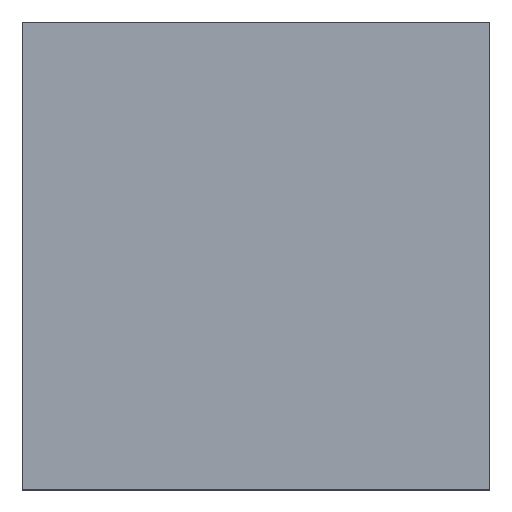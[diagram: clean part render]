
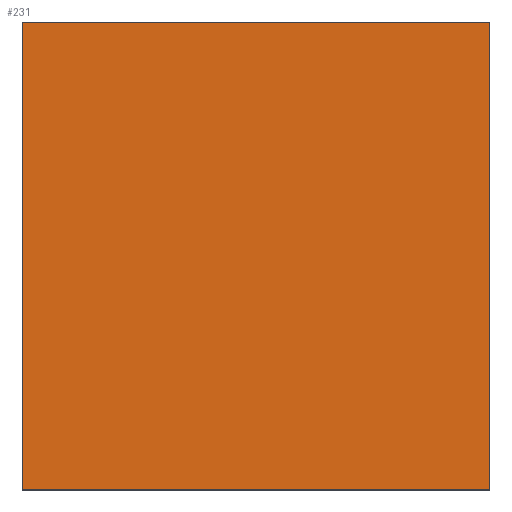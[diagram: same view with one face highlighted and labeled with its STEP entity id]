
A CAD part, top view. The second image highlights one B-rep face of the part: STEP entity #231.
In plain terms, the highlighted planar face has unit normal (0, 0, 1).
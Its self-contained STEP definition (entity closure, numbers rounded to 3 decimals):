
#42 = VERTEX_POINT('',#43);
#43 = CARTESIAN_POINT('',(-12.,-15.,72.6));
#50 = PLANE('',#51);
#51 = AXIS2_PLACEMENT_3D('',#52,#53,#54);
#52 = CARTESIAN_POINT('',(-12.,-15.,71.));
#53 = DIRECTION('',(1.,0.,0.));
#54 = DIRECTION('',(0.,0.,1.));
#62 = PLANE('',#63);
#63 = AXIS2_PLACEMENT_3D('',#64,#65,#66);
#64 = CARTESIAN_POINT('',(-12.,-15.,71.));
#65 = DIRECTION('',(0.,1.,0.));
#66 = DIRECTION('',(0.,0.,1.));
#103 = VERTEX_POINT('',#104);
#104 = CARTESIAN_POINT('',(-12.,9.,72.6));
#118 = PLANE('',#119);
#119 = AXIS2_PLACEMENT_3D('',#120,#121,#122);
#120 = CARTESIAN_POINT('',(-12.,9.,71.));
#121 = DIRECTION('',(0.,1.,0.));
#122 = DIRECTION('',(0.,0.,1.));
#130 = EDGE_CURVE('',#42,#103,#131,.T.);
#131 = SURFACE_CURVE('',#132,(#136,#143),.PCURVE_S1.);
#132 = LINE('',#133,#134);
#133 = CARTESIAN_POINT('',(-12.,-15.,72.6));
#134 = VECTOR('',#135,1.);
#135 = DIRECTION('',(0.,1.,0.));
#136 = PCURVE('',#50,#137);
#137 = DEFINITIONAL_REPRESENTATION('',(#138),#142);
#138 = LINE('',#139,#140);
#139 = CARTESIAN_POINT('',(1.6,0.));
#140 = VECTOR('',#141,1.);
#141 = DIRECTION('',(0.,-1.));
#142 = ( GEOMETRIC_REPRESENTATION_CONTEXT(2) 
PARAMETRIC_REPRESENTATION_CONTEXT() REPRESENTATION_CONTEXT('2D SPACE',''
  ) );
#143 = PCURVE('',#144,#149);
#144 = PLANE('',#145);
#145 = AXIS2_PLACEMENT_3D('',#146,#147,#148);
#146 = CARTESIAN_POINT('',(-12.,-15.,72.6));
#147 = DIRECTION('',(0.,0.,1.));
#148 = DIRECTION('',(1.,0.,0.));
#149 = DEFINITIONAL_REPRESENTATION('',(#150),#154);
#150 = LINE('',#151,#152);
#151 = CARTESIAN_POINT('',(0.,0.));
#152 = VECTOR('',#153,1.);
#153 = DIRECTION('',(0.,1.));
#154 = ( GEOMETRIC_REPRESENTATION_CONTEXT(2) 
PARAMETRIC_REPRESENTATION_CONTEXT() REPRESENTATION_CONTEXT('2D SPACE',''
  ) );
#183 = EDGE_CURVE('',#42,#184,#186,.T.);
#184 = VERTEX_POINT('',#185);
#185 = CARTESIAN_POINT('',(12.,-15.,72.6));
#186 = SURFACE_CURVE('',#187,(#191,#198),.PCURVE_S1.);
#187 = LINE('',#188,#189);
#188 = CARTESIAN_POINT('',(-12.,-15.,72.6));
#189 = VECTOR('',#190,1.);
#190 = DIRECTION('',(1.,0.,0.));
#191 = PCURVE('',#62,#192);
#192 = DEFINITIONAL_REPRESENTATION('',(#193),#197);
#193 = LINE('',#194,#195);
#194 = CARTESIAN_POINT('',(1.6,0.));
#195 = VECTOR('',#196,1.);
#196 = DIRECTION('',(0.,1.));
#197 = ( GEOMETRIC_REPRESENTATION_CONTEXT(2) 
PARAMETRIC_REPRESENTATION_CONTEXT() REPRESENTATION_CONTEXT('2D SPACE',''
  ) );
#198 = PCURVE('',#144,#199);
#199 = DEFINITIONAL_REPRESENTATION('',(#200),#204);
#200 = LINE('',#201,#202);
#201 = CARTESIAN_POINT('',(0.,0.));
#202 = VECTOR('',#203,1.);
#203 = DIRECTION('',(1.,0.));
#204 = ( GEOMETRIC_REPRESENTATION_CONTEXT(2) 
PARAMETRIC_REPRESENTATION_CONTEXT() REPRESENTATION_CONTEXT('2D SPACE',''
  ) );
#220 = PLANE('',#221);
#221 = AXIS2_PLACEMENT_3D('',#222,#223,#224);
#222 = CARTESIAN_POINT('',(12.,-15.,71.));
#223 = DIRECTION('',(1.,0.,0.));
#224 = DIRECTION('',(0.,0.,1.));
#231 = ADVANCED_FACE('',(#232),#144,.T.);
#232 = FACE_BOUND('',#233,.T.);
#233 = EDGE_LOOP('',(#234,#235,#236,#259));
#234 = ORIENTED_EDGE('',*,*,#130,.F.);
#235 = ORIENTED_EDGE('',*,*,#183,.T.);
#236 = ORIENTED_EDGE('',*,*,#237,.T.);
#237 = EDGE_CURVE('',#184,#238,#240,.T.);
#238 = VERTEX_POINT('',#239);
#239 = CARTESIAN_POINT('',(12.,9.,72.6));
#240 = SURFACE_CURVE('',#241,(#245,#252),.PCURVE_S1.);
#241 = LINE('',#242,#243);
#242 = CARTESIAN_POINT('',(12.,-15.,72.6));
#243 = VECTOR('',#244,1.);
#244 = DIRECTION('',(0.,1.,0.));
#245 = PCURVE('',#144,#246);
#246 = DEFINITIONAL_REPRESENTATION('',(#247),#251);
#247 = LINE('',#248,#249);
#248 = CARTESIAN_POINT('',(24.,0.));
#249 = VECTOR('',#250,1.);
#250 = DIRECTION('',(0.,1.));
#251 = ( GEOMETRIC_REPRESENTATION_CONTEXT(2) 
PARAMETRIC_REPRESENTATION_CONTEXT() REPRESENTATION_CONTEXT('2D SPACE',''
  ) );
#252 = PCURVE('',#220,#253);
#253 = DEFINITIONAL_REPRESENTATION('',(#254),#258);
#254 = LINE('',#255,#256);
#255 = CARTESIAN_POINT('',(1.6,0.));
#256 = VECTOR('',#257,1.);
#257 = DIRECTION('',(0.,-1.));
#258 = ( GEOMETRIC_REPRESENTATION_CONTEXT(2) 
PARAMETRIC_REPRESENTATION_CONTEXT() REPRESENTATION_CONTEXT('2D SPACE',''
  ) );
#259 = ORIENTED_EDGE('',*,*,#260,.F.);
#260 = EDGE_CURVE('',#103,#238,#261,.T.);
#261 = SURFACE_CURVE('',#262,(#266,#273),.PCURVE_S1.);
#262 = LINE('',#263,#264);
#263 = CARTESIAN_POINT('',(-12.,9.,72.6));
#264 = VECTOR('',#265,1.);
#265 = DIRECTION('',(1.,0.,0.));
#266 = PCURVE('',#144,#267);
#267 = DEFINITIONAL_REPRESENTATION('',(#268),#272);
#268 = LINE('',#269,#270);
#269 = CARTESIAN_POINT('',(0.,24.));
#270 = VECTOR('',#271,1.);
#271 = DIRECTION('',(1.,0.));
#272 = ( GEOMETRIC_REPRESENTATION_CONTEXT(2) 
PARAMETRIC_REPRESENTATION_CONTEXT() REPRESENTATION_CONTEXT('2D SPACE',''
  ) );
#273 = PCURVE('',#118,#274);
#274 = DEFINITIONAL_REPRESENTATION('',(#275),#279);
#275 = LINE('',#276,#277);
#276 = CARTESIAN_POINT('',(1.6,0.));
#277 = VECTOR('',#278,1.);
#278 = DIRECTION('',(0.,1.));
#279 = ( GEOMETRIC_REPRESENTATION_CONTEXT(2) 
PARAMETRIC_REPRESENTATION_CONTEXT() REPRESENTATION_CONTEXT('2D SPACE',''
  ) );
